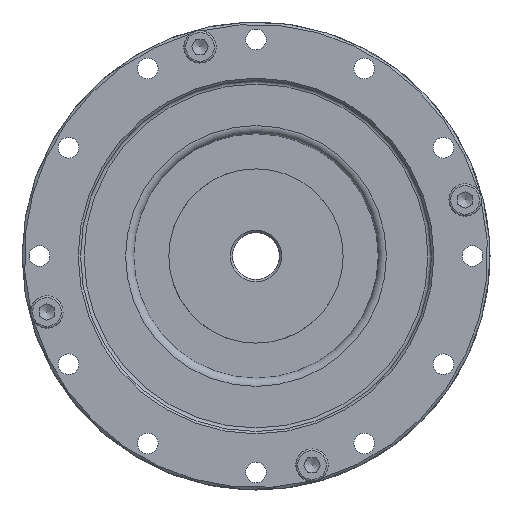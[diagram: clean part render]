
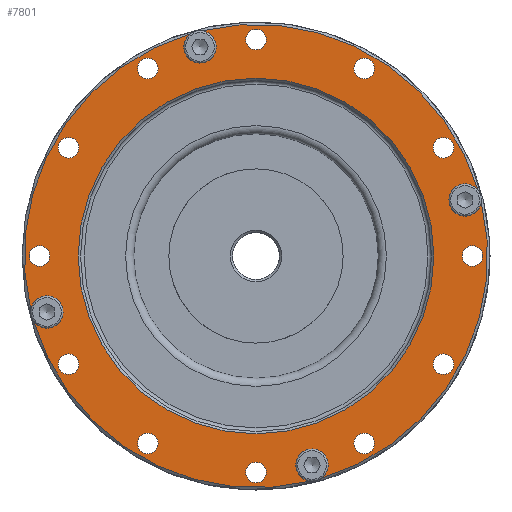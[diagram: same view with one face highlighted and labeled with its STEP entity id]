
A CAD part, left-side view. The second image highlights one B-rep face of the part: STEP entity #7801.
In plain terms, the highlighted planar face has unit normal (-1, 0, 0).
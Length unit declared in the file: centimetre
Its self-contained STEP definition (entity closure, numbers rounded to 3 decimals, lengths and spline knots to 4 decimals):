
#850=PLANE($,#8943);
#1157=FACE_BOUND($,#2343,.T.);
#1158=FACE_BOUND($,#2344,.T.);
#1159=FACE_BOUND($,#2345,.T.);
#1160=FACE_BOUND($,#2346,.T.);
#1161=FACE_BOUND($,#2347,.T.);
#1162=FACE_BOUND($,#2348,.T.);
#1163=FACE_BOUND($,#2349,.T.);
#1164=FACE_BOUND($,#2350,.T.);
#1165=FACE_BOUND($,#2351,.T.);
#1166=FACE_BOUND($,#2352,.T.);
#1167=FACE_BOUND($,#2353,.T.);
#1168=FACE_BOUND($,#2354,.T.);
#1169=FACE_BOUND($,#2355,.T.);
#1170=FACE_BOUND($,#2356,.T.);
#2343=EDGE_LOOP($,(#6467));
#2344=EDGE_LOOP($,(#6468));
#2345=EDGE_LOOP($,(#6469));
#2346=EDGE_LOOP($,(#6470));
#2347=EDGE_LOOP($,(#6471));
#2348=EDGE_LOOP($,(#6472));
#2349=EDGE_LOOP($,(#6473));
#2350=EDGE_LOOP($,(#6474));
#2351=EDGE_LOOP($,(#6475));
#2352=EDGE_LOOP($,(#6476));
#2353=EDGE_LOOP($,(#6477));
#2354=EDGE_LOOP($,(#6478));
#2355=EDGE_LOOP($,(#6479));
#2356=EDGE_LOOP($,(#6480,#6481,#6482,#6483,#6484,#6485,#6486,#6487));
#2916=CIRCLE($,#8650,0.275);
#2921=CIRCLE($,#8666,0.275);
#2940=CIRCLE($,#8698,0.175);
#2941=CIRCLE($,#8700,0.175);
#2942=CIRCLE($,#8702,0.175);
#2943=CIRCLE($,#8704,0.175);
#2944=CIRCLE($,#8706,0.175);
#2945=CIRCLE($,#8708,0.175);
#2946=CIRCLE($,#8710,0.175);
#2947=CIRCLE($,#8712,0.175);
#2948=CIRCLE($,#8714,0.175);
#2949=CIRCLE($,#8716,0.175);
#2950=CIRCLE($,#8718,0.175);
#2951=CIRCLE($,#8720,0.175);
#3049=CIRCLE($,#8916,3.04);
#3050=CIRCLE($,#8918,3.96);
#3052=CIRCLE($,#8920,3.96);
#3053=CIRCLE($,#8921,3.96);
#3055=CIRCLE($,#8923,3.96);
#3059=CIRCLE($,#8937,0.275);
#3062=CIRCLE($,#8944,0.275);
#3495=VERTEX_POINT($,#13074);
#3496=VERTEX_POINT($,#13075);
#3511=VERTEX_POINT($,#13136);
#3512=VERTEX_POINT($,#13137);
#3545=VERTEX_POINT($,#13239);
#3546=VERTEX_POINT($,#13242);
#3547=VERTEX_POINT($,#13245);
#3548=VERTEX_POINT($,#13248);
#3549=VERTEX_POINT($,#13251);
#3550=VERTEX_POINT($,#13254);
#3551=VERTEX_POINT($,#13257);
#3552=VERTEX_POINT($,#13260);
#3553=VERTEX_POINT($,#13263);
#3554=VERTEX_POINT($,#13266);
#3555=VERTEX_POINT($,#13269);
#3556=VERTEX_POINT($,#13272);
#3674=VERTEX_POINT($,#13642);
#3675=VERTEX_POINT($,#13645);
#3676=VERTEX_POINT($,#13647);
#3677=VERTEX_POINT($,#13650);
#3678=VERTEX_POINT($,#13652);
#4380=EDGE_CURVE($,#3496,#3495,#2916,.T.);
#4403=EDGE_CURVE($,#3512,#3511,#2921,.T.);
#4434=EDGE_CURVE($,#3545,#3545,#2940,.T.);
#4435=EDGE_CURVE($,#3546,#3546,#2941,.T.);
#4436=EDGE_CURVE($,#3547,#3547,#2942,.T.);
#4437=EDGE_CURVE($,#3548,#3548,#2943,.T.);
#4438=EDGE_CURVE($,#3549,#3549,#2944,.T.);
#4439=EDGE_CURVE($,#3550,#3550,#2945,.T.);
#4440=EDGE_CURVE($,#3551,#3551,#2946,.T.);
#4441=EDGE_CURVE($,#3552,#3552,#2947,.T.);
#4442=EDGE_CURVE($,#3553,#3553,#2948,.T.);
#4443=EDGE_CURVE($,#3554,#3554,#2949,.T.);
#4444=EDGE_CURVE($,#3555,#3555,#2950,.T.);
#4445=EDGE_CURVE($,#3556,#3556,#2951,.T.);
#4583=EDGE_CURVE($,#3674,#3674,#3049,.T.);
#4584=EDGE_CURVE($,#3512,#3675,#3050,.T.);
#4586=EDGE_CURVE($,#3676,#3495,#3052,.T.);
#4587=EDGE_CURVE($,#3496,#3677,#3053,.T.);
#4589=EDGE_CURVE($,#3678,#3511,#3055,.T.);
#4611=EDGE_CURVE($,#3676,#3675,#3059,.T.);
#4614=EDGE_CURVE($,#3678,#3677,#3062,.T.);
#6467=ORIENTED_EDGE($,*,*,#4583,.F.);
#6468=ORIENTED_EDGE($,*,*,#4445,.T.);
#6469=ORIENTED_EDGE($,*,*,#4444,.T.);
#6470=ORIENTED_EDGE($,*,*,#4443,.T.);
#6471=ORIENTED_EDGE($,*,*,#4442,.T.);
#6472=ORIENTED_EDGE($,*,*,#4441,.T.);
#6473=ORIENTED_EDGE($,*,*,#4440,.T.);
#6474=ORIENTED_EDGE($,*,*,#4439,.T.);
#6475=ORIENTED_EDGE($,*,*,#4438,.T.);
#6476=ORIENTED_EDGE($,*,*,#4437,.T.);
#6477=ORIENTED_EDGE($,*,*,#4436,.T.);
#6478=ORIENTED_EDGE($,*,*,#4435,.T.);
#6479=ORIENTED_EDGE($,*,*,#4434,.T.);
#6480=ORIENTED_EDGE($,*,*,#4614,.T.);
#6481=ORIENTED_EDGE($,*,*,#4587,.F.);
#6482=ORIENTED_EDGE($,*,*,#4380,.T.);
#6483=ORIENTED_EDGE($,*,*,#4586,.F.);
#6484=ORIENTED_EDGE($,*,*,#4611,.T.);
#6485=ORIENTED_EDGE($,*,*,#4584,.F.);
#6486=ORIENTED_EDGE($,*,*,#4403,.T.);
#6487=ORIENTED_EDGE($,*,*,#4589,.F.);
#7801=ADVANCED_FACE($,(#1157,#1158,#1159,#1160,#1161,#1162,#1163,#1164,
#1165,#1166,#1167,#1168,#1169,#1170),#850,.T.);
#8650=AXIS2_PLACEMENT_3D($,#13097,#10715,#10716);
#8666=AXIS2_PLACEMENT_3D($,#13159,#10759,#10760);
#8698=AXIS2_PLACEMENT_3D($,#13240,#10829,#10830);
#8700=AXIS2_PLACEMENT_3D($,#13243,#10833,#10834);
#8702=AXIS2_PLACEMENT_3D($,#13246,#10837,#10838);
#8704=AXIS2_PLACEMENT_3D($,#13249,#10841,#10842);
#8706=AXIS2_PLACEMENT_3D($,#13252,#10845,#10846);
#8708=AXIS2_PLACEMENT_3D($,#13255,#10849,#10850);
#8710=AXIS2_PLACEMENT_3D($,#13258,#10853,#10854);
#8712=AXIS2_PLACEMENT_3D($,#13261,#10857,#10858);
#8714=AXIS2_PLACEMENT_3D($,#13264,#10861,#10862);
#8716=AXIS2_PLACEMENT_3D($,#13267,#10865,#10866);
#8718=AXIS2_PLACEMENT_3D($,#13270,#10869,#10870);
#8720=AXIS2_PLACEMENT_3D($,#13273,#10873,#10874);
#8916=AXIS2_PLACEMENT_3D($,#13643,#11297,#11298);
#8918=AXIS2_PLACEMENT_3D($,#13646,#11301,#11302);
#8920=AXIS2_PLACEMENT_3D($,#13649,#11305,#11306);
#8921=AXIS2_PLACEMENT_3D($,#13651,#11307,#11308);
#8923=AXIS2_PLACEMENT_3D($,#13654,#11311,#11312);
#8937=AXIS2_PLACEMENT_3D($,#13712,#11351,#11352);
#8943=AXIS2_PLACEMENT_3D($,#13720,#11363,#11364);
#8944=AXIS2_PLACEMENT_3D($,#13721,#11365,#11366);
#10715=DIRECTION('center_axis',(1.,0.,0.));
#10716=DIRECTION('ref_axis',(0.,-1.,0.));
#10759=DIRECTION('center_axis',(1.,0.,0.));
#10760=DIRECTION('ref_axis',(0.,1.,0.));
#10829=DIRECTION('center_axis',(1.,0.,0.));
#10830=DIRECTION('ref_axis',(0.,0.,1.));
#10833=DIRECTION('center_axis',(1.,0.,0.));
#10834=DIRECTION('ref_axis',(0.,-0.5,0.866));
#10837=DIRECTION('center_axis',(1.,0.,0.));
#10838=DIRECTION('ref_axis',(0.,-0.866,0.5));
#10841=DIRECTION('center_axis',(1.,0.,0.));
#10842=DIRECTION('ref_axis',(0.,-1.,0.));
#10845=DIRECTION('center_axis',(1.,0.,0.));
#10846=DIRECTION('ref_axis',(0.,-0.866,-0.5));
#10849=DIRECTION('center_axis',(1.,0.,0.));
#10850=DIRECTION('ref_axis',(0.,-0.5,-0.866));
#10853=DIRECTION('center_axis',(1.,0.,0.));
#10854=DIRECTION('ref_axis',(0.,0.,-1.));
#10857=DIRECTION('center_axis',(1.,0.,0.));
#10858=DIRECTION('ref_axis',(0.,0.5,-0.866));
#10861=DIRECTION('center_axis',(1.,0.,0.));
#10862=DIRECTION('ref_axis',(0.,0.866,-0.5));
#10865=DIRECTION('center_axis',(1.,0.,0.));
#10866=DIRECTION('ref_axis',(0.,1.,0.));
#10869=DIRECTION('center_axis',(1.,0.,0.));
#10870=DIRECTION('ref_axis',(0.,0.866,0.5));
#10873=DIRECTION('center_axis',(1.,0.,0.));
#10874=DIRECTION('ref_axis',(0.,0.5,0.866));
#11297=DIRECTION('center_axis',(-1.,0.,0.));
#11298=DIRECTION('ref_axis',(0.,-1.,0.));
#11301=DIRECTION('center_axis',(1.,0.,0.));
#11302=DIRECTION('ref_axis',(0.,-1.,0.));
#11305=DIRECTION('center_axis',(1.,0.,0.));
#11306=DIRECTION('ref_axis',(0.,-1.,0.));
#11307=DIRECTION('center_axis',(1.,0.,0.));
#11308=DIRECTION('ref_axis',(0.,-1.,0.));
#11311=DIRECTION('center_axis',(1.,0.,0.));
#11312=DIRECTION('ref_axis',(0.,-1.,0.));
#11351=DIRECTION('center_axis',(1.,0.,0.));
#11352=DIRECTION('ref_axis',(0.,0.,1.));
#11363=DIRECTION('center_axis',(-1.,0.,0.));
#11364=DIRECTION('ref_axis',(0.,0.,1.));
#11365=DIRECTION('center_axis',(1.,0.,0.));
#11366=DIRECTION('ref_axis',(0.,0.,-1.));
#13074=CARTESIAN_POINT('',(-0.3,-3.8,1.1142));
#13075=CARTESIAN_POINT('',(-0.3,-3.848,0.9351));
#13097=CARTESIAN_POINT('Origin',(-0.3,-3.5739,0.9576));
#13136=CARTESIAN_POINT('',(-0.3,3.8,-1.1142));
#13137=CARTESIAN_POINT('',(-0.3,3.848,-0.9351));
#13159=CARTESIAN_POINT('Origin',(-0.3,3.5739,-0.9576));
#13239=CARTESIAN_POINT('',(-0.3,3.7,0.175));
#13240=CARTESIAN_POINT('Origin',(-0.3,3.7,0.));
#13242=CARTESIAN_POINT('',(-0.3,3.1168,2.0016));
#13243=CARTESIAN_POINT('Origin',(-0.3,3.2043,1.85));
#13245=CARTESIAN_POINT('',(-0.3,1.6984,3.2918));
#13246=CARTESIAN_POINT('Origin',(-0.3,1.85,3.2043));
#13248=CARTESIAN_POINT('',(-0.3,-0.175,3.7));
#13249=CARTESIAN_POINT('Origin',(-0.3,0.,3.7));
#13251=CARTESIAN_POINT('',(-0.3,-2.0016,3.1168));
#13252=CARTESIAN_POINT('Origin',(-0.3,-1.85,3.2043));
#13254=CARTESIAN_POINT('',(-0.3,-3.2918,1.6984));
#13255=CARTESIAN_POINT('Origin',(-0.3,-3.2043,1.85));
#13257=CARTESIAN_POINT('',(-0.3,-3.7,-0.175));
#13258=CARTESIAN_POINT('Origin',(-0.3,-3.7,0.));
#13260=CARTESIAN_POINT('',(-0.3,-3.1168,-2.0016));
#13261=CARTESIAN_POINT('Origin',(-0.3,-3.2043,-1.85));
#13263=CARTESIAN_POINT('',(-0.3,-1.6984,-3.2918));
#13264=CARTESIAN_POINT('Origin',(-0.3,-1.85,-3.2043));
#13266=CARTESIAN_POINT('',(-0.3,0.175,-3.7));
#13267=CARTESIAN_POINT('Origin',(-0.3,0.,-3.7));
#13269=CARTESIAN_POINT('',(-0.3,2.0016,-3.1168));
#13270=CARTESIAN_POINT('Origin',(-0.3,1.85,-3.2043));
#13272=CARTESIAN_POINT('',(-0.3,3.2918,-1.6984));
#13273=CARTESIAN_POINT('Origin',(-0.3,3.2043,-1.85));
#13642=CARTESIAN_POINT('',(-0.3,3.04,0.));
#13643=CARTESIAN_POINT('Origin',(-0.3,0.,0.));
#13645=CARTESIAN_POINT('',(-0.3,1.1142,3.8));
#13646=CARTESIAN_POINT('Origin',(-0.3,0.,0.));
#13647=CARTESIAN_POINT('',(-0.3,0.9351,3.848));
#13649=CARTESIAN_POINT('Origin',(-0.3,0.,0.));
#13650=CARTESIAN_POINT('',(-0.3,-1.1142,-3.8));
#13651=CARTESIAN_POINT('Origin',(-0.3,0.,0.));
#13652=CARTESIAN_POINT('',(-0.3,-0.9351,-3.848));
#13654=CARTESIAN_POINT('Origin',(-0.3,0.,0.));
#13712=CARTESIAN_POINT('Origin',(-0.3,0.9576,3.5739));
#13720=CARTESIAN_POINT('Origin',(-0.3,4.,0.));
#13721=CARTESIAN_POINT('Origin',(-0.3,-0.9576,-3.5739));
